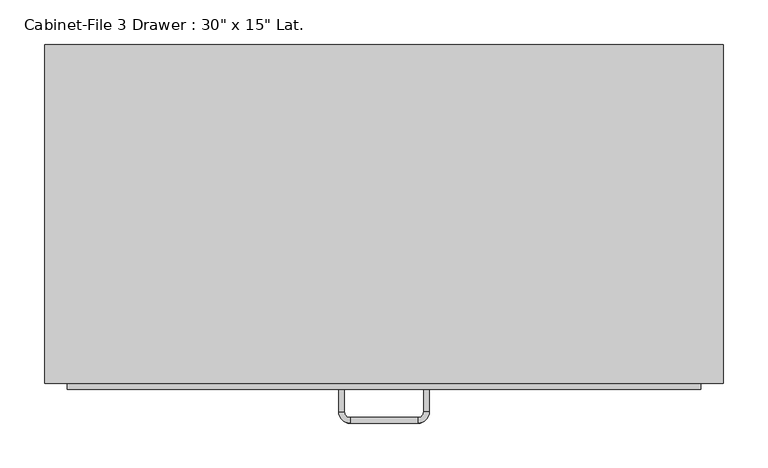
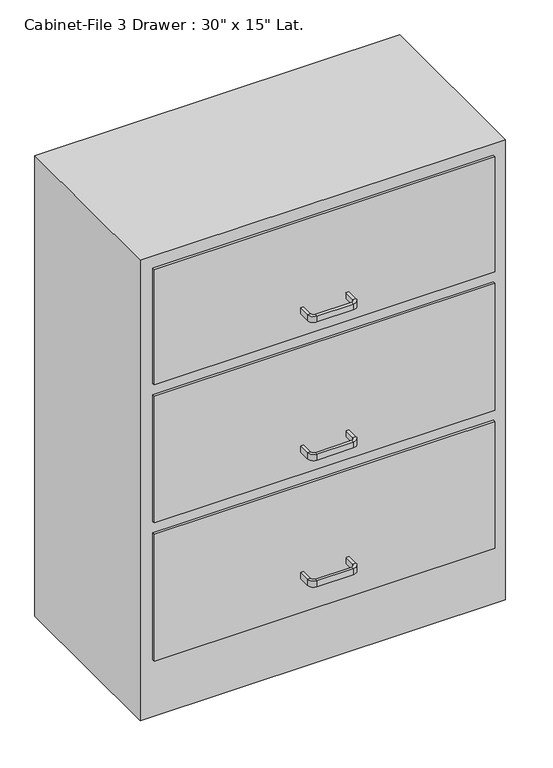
"""IFC4 building model written with IfcOpenShell, lengths in millimetres: furniture geometry."""

from ifc_helpers import new_model, si_unit, frame, origin, origin_with_axes, place, context, project, spatial, polyline, circle_curve, outline, extrude, source, transform, mapped, element, save
from ifc_brep_helpers import plane_surface, cylinder_surface, revolved_surface, advanced_brep


def furniture_4ebe9c9a(model_context):
    return source(origin(), model_context, "Body", "SolidModel", [
        extrude(outline(polyline([(253.103553, 48.3656999), (253.103553, -332.6343001), (-508.896447, -332.6343001), (-508.896447, 48.3656999), (253.103553, 48.3656999)])), origin_with_axes(), (0.0, 0.0, 1.0), 1016.0),
        extrude(outline(polyline([(227.703553, -338.9843001), (-483.496447, -338.9843001), (-483.496447, -332.6343001), (227.703553, -332.6343001), (227.703553, -338.9843001)])), frame((0.0, 0.0, 736.6), z_axis=(0.0, 0.0, 1.0), x_axis=(1.0, 0.0, 0.0)), (0.0, 0.0, 1.0), 254.0),
        extrude(outline(polyline([(227.703553, -338.9843001), (-483.496447, -338.9843001), (-483.496447, -332.6343001), (227.703553, -332.6343001), (227.703553, -338.9843001)])), frame((0.0, 0.0, 431.8), z_axis=(0.0, 0.0, 1.0), x_axis=(1.0, 0.0, 0.0)), (0.0, 0.0, 1.0), 279.4),
        extrude(outline(polyline([(227.703553, -338.9843001), (-483.496447, -338.9843001), (-483.496447, -332.6343001), (227.703553, -332.6343001), (227.703553, -338.9843001)])), frame((0.0, 0.0, 127.0), z_axis=(0.0, 0.0, 1.0), x_axis=(1.0, 0.0, 0.0)), (0.0, 0.0, 1.0), 279.4),
        advanced_brep(
        [(-172.346447, -338.9843001, 203.2), (-178.696447, -338.9843001, 203.2), (-178.696447, -338.9843001, 215.9), (-172.346447, -338.9843001, 215.9), (-172.346447, -364.3843001, 203.2), (-178.696447, -364.3843001, 203.2), (-178.696447, -364.3843001, 215.9), (-172.346447, -364.3843001, 215.9), (-165.996447, -377.0843001, 203.2), (-165.996447, -370.7343001, 203.2), (-165.996447, -377.0843001, 215.9), (-165.996447, -370.7343001, 215.9), (-89.796447, -370.7343001, 203.2), (-89.796447, -377.0843001, 203.2), (-89.796447, -377.0843001, 215.9), (-89.796447, -370.7343001, 215.9), (-77.096447, -364.3843001, 203.2), (-83.446447, -364.3843001, 203.2), (-77.096447, -364.3843001, 215.9), (-83.446447, -364.3843001, 215.9), (-83.446447, -338.9843001, 203.2), (-83.446447, -338.9843001, 215.9), (-77.096447, -338.9843001, 215.9), (-77.096447, -338.9843001, 203.2)],
        [
            (0, 1),
            (1, 2),
            (2, 3),
            (3, 0),
            (0, 4),
            (4, 5),
            (5, 1),
            (5, 6),
            (6, 2),
            (6, 7),
            (7, 3),
            (7, 4),
            (8, 5, circle_curve(frame((-165.996447, -364.3843001, 203.2), z_axis=(0.0, 0.0, -1.0), x_axis=(-1.0, 0.0, 0.0)), 12.7)),
            (4, 9, circle_curve(frame((-165.996447, -364.3843001, 203.2), z_axis=(0.0, 0.0, 1.0), x_axis=(-1.0, 0.0, 0.0)), 6.35)),
            (9, 8),
            (10, 6, circle_curve(frame((-165.996447, -364.3843001, 215.9), z_axis=(0.0, 0.0, -1.0), x_axis=(-1.0, 0.0, 0.0)), 12.7)),
            (8, 10),
            (11, 7, circle_curve(frame((-165.996447, -364.3843001, 215.9), z_axis=(0.0, 0.0, -1.0), x_axis=(-1.0, 0.0, 0.0)), 6.35)),
            (10, 11),
            (11, 9),
            (9, 12),
            (12, 13),
            (13, 8),
            (13, 14),
            (14, 10),
            (14, 15),
            (15, 11),
            (15, 12),
            (16, 13, circle_curve(frame((-89.796447, -364.3843001, 203.2), z_axis=(0.0, 0.0, -1.0), x_axis=(0.0, -1.0, 0.0)), 12.7)),
            (12, 17, circle_curve(frame((-89.796447, -364.3843001, 203.2), z_axis=(0.0, 0.0, 1.0), x_axis=(0.0, -1.0, 0.0)), 6.35)),
            (17, 16),
            (18, 14, circle_curve(frame((-89.796447, -364.3843001, 215.9), z_axis=(0.0, 0.0, -1.0), x_axis=(0.0, -1.0, 0.0)), 12.7)),
            (16, 18),
            (19, 15, circle_curve(frame((-89.796447, -364.3843001, 215.9), z_axis=(0.0, 0.0, -1.0), x_axis=(0.0, -1.0, 0.0)), 6.35)),
            (18, 19),
            (19, 17),
            (20, 21),
            (21, 22),
            (22, 23),
            (23, 20),
            (17, 20),
            (23, 16),
            (22, 18),
            (21, 19),
        ],
        [
            plane_surface(frame((-978.8216451, -338.9843001, 0.0), z_axis=(0.0, 1.0, 0.0), x_axis=(0.0, 0.0, -1.0))),
            plane_surface(frame((-172.346447, -338.9843001, 203.2), z_axis=(0.0, 0.0, -1.0), x_axis=(0.0, -1.0, 0.0))),
            plane_surface(frame((-178.696447, -338.9843001, 203.2), z_axis=(-1.0, 0.0, 0.0), x_axis=(0.0, -1.0, 0.0))),
            plane_surface(frame((-178.696447, -338.9843001, 215.9), z_axis=(0.0, 0.0, 1.0), x_axis=(0.0, -1.0, 0.0))),
            plane_surface(frame((-172.346447, -338.9843001, 215.9), z_axis=(1.0, 0.0, 0.0), x_axis=(0.0, -1.0, 0.0))),
            plane_surface(frame((-165.996447, -364.3843001, 203.2), z_axis=(0.0, 0.0, -1.0), x_axis=(-1.0, 0.0, 0.0))),
            cylinder_surface(frame((-165.996447, -364.3843001, 0.0), z_axis=(0.0, 0.0, 1.0), x_axis=(-1.0, 0.0, 0.0)), 12.7),
            plane_surface(frame((-165.996447, -364.3843001, 215.9), z_axis=(0.0, 0.0, 1.0), x_axis=(-1.0, 0.0, 0.0))),
            revolved_surface(polyline([(-172.34644699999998, -364.3843001, 215.9), (-172.34644699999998, -364.3843001, 203.2)]), (-165.996447, -364.3843001, 0.0), (0.0, 0.0, 1.0)),
            plane_surface(frame((-165.996447, -370.7343001, 203.2), z_axis=(0.0, 0.0, -1.0), x_axis=(1.0, 0.0, 0.0))),
            plane_surface(frame((-165.996447, -377.0843001, 203.2), z_axis=(0.0, -1.0, 0.0), x_axis=(1.0, 0.0, 0.0))),
            plane_surface(frame((-165.996447, -377.0843001, 215.9), z_axis=(0.0, 0.0, 1.0), x_axis=(1.0, 0.0, 0.0))),
            plane_surface(frame((-165.996447, -370.7343001, 215.9), z_axis=(0.0, 1.0, 0.0), x_axis=(1.0, 0.0, 0.0))),
            plane_surface(frame((-89.796447, -364.3843001, 203.2), z_axis=(0.0, 0.0, -1.0), x_axis=(0.0, -1.0, 0.0))),
            cylinder_surface(frame((-89.796447, -364.3843001, 0.0), z_axis=(0.0, 0.0, 1.0), x_axis=(0.0, -1.0, 0.0)), 12.7),
            plane_surface(frame((-89.796447, -364.3843001, 215.9), z_axis=(0.0, 0.0, 1.0), x_axis=(0.0, -1.0, 0.0))),
            revolved_surface(polyline([(-89.796447, -370.73430010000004, 215.9), (-89.796447, -370.73430010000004, 203.2)]), (-89.796447, -364.3843001, 0.0), (0.0, 0.0, 1.0)),
            plane_surface(frame((-877.2216451, -338.9843001, 0.0), z_axis=(0.0, 1.0, 0.0), x_axis=(0.0, 0.0, 1.0))),
            plane_surface(frame((-83.446447, -364.3843001, 203.2), z_axis=(0.0, 0.0, -1.0), x_axis=(0.0, 1.0, 0.0))),
            plane_surface(frame((-77.096447, -364.3843001, 203.2), z_axis=(1.0, 0.0, 0.0), x_axis=(0.0, 1.0, 0.0))),
            plane_surface(frame((-77.096447, -364.3843001, 215.9), z_axis=(0.0, 0.0, 1.0), x_axis=(0.0, 1.0, 0.0))),
            plane_surface(frame((-83.446447, -364.3843001, 215.9), z_axis=(-1.0, 0.0, 0.0), x_axis=(0.0, 1.0, 0.0))),
        ],
        [
            (0, [[1, 2, 3, 4]]),
            (1, [[-1, 5, 6, 7]]),
            (2, [[-2, -7, 8, 9]]),
            (3, [[-3, -9, 10, 11]]),
            (4, [[-4, -11, 12, -5]]),
            (5, [[13, -6, 14, 15]]),
            (6, [[16, -8, -13, 17]]),
            (7, [[18, -10, -16, 19]]),
            (8, [[-14, -12, -18, 20]]),
            (9, [[-15, 21, 22, 23]]),
            (10, [[-17, -23, 24, 25]]),
            (11, [[-19, -25, 26, 27]]),
            (12, [[-20, -27, 28, -21]]),
            (13, [[29, -22, 30, 31]]),
            (14, [[32, -24, -29, 33]]),
            (15, [[34, -26, -32, 35]]),
            (16, [[-30, -28, -34, 36]]),
            (17, [[37, 38, 39, 40]]),
            (18, [[-31, 41, -40, 42]]),
            (19, [[-33, -42, -39, 43]]),
            (20, [[-35, -43, -38, 44]]),
            (21, [[-36, -44, -37, -41]]),
        ],
    ),
        advanced_brep(
        [(-172.346447, -338.9843001, 482.6), (-178.696447, -338.9843001, 482.6), (-178.696447, -338.9843001, 495.3), (-172.346447, -338.9843001, 495.3), (-172.346447, -364.3843001, 482.6), (-178.696447, -364.3843001, 482.6), (-178.696447, -364.3843001, 495.3), (-172.346447, -364.3843001, 495.3), (-165.996447, -377.0843001, 482.6), (-165.996447, -370.7343001, 482.6), (-165.996447, -377.0843001, 495.3), (-165.996447, -370.7343001, 495.3), (-89.796447, -370.7343001, 482.6), (-89.796447, -377.0843001, 482.6), (-89.796447, -377.0843001, 495.3), (-89.796447, -370.7343001, 495.3), (-77.096447, -364.3843001, 482.6), (-83.446447, -364.3843001, 482.6), (-77.096447, -364.3843001, 495.3), (-83.446447, -364.3843001, 495.3), (-83.446447, -338.9843001, 482.6), (-83.446447, -338.9843001, 495.3), (-77.096447, -338.9843001, 495.3), (-77.096447, -338.9843001, 482.6)],
        [
            (0, 1),
            (1, 2),
            (2, 3),
            (3, 0),
            (0, 4),
            (4, 5),
            (5, 1),
            (5, 6),
            (6, 2),
            (6, 7),
            (7, 3),
            (7, 4),
            (8, 5, circle_curve(frame((-165.996447, -364.3843001, 482.6), z_axis=(0.0, 0.0, -1.0), x_axis=(-1.0, 0.0, 0.0)), 12.7)),
            (4, 9, circle_curve(frame((-165.996447, -364.3843001, 482.6), z_axis=(0.0, 0.0, 1.0), x_axis=(-1.0, 0.0, 0.0)), 6.35)),
            (9, 8),
            (10, 6, circle_curve(frame((-165.996447, -364.3843001, 495.3), z_axis=(0.0, 0.0, -1.0), x_axis=(-1.0, 0.0, 0.0)), 12.7)),
            (8, 10),
            (11, 7, circle_curve(frame((-165.996447, -364.3843001, 495.3), z_axis=(0.0, 0.0, -1.0), x_axis=(-1.0, 0.0, 0.0)), 6.35)),
            (10, 11),
            (11, 9),
            (9, 12),
            (12, 13),
            (13, 8),
            (13, 14),
            (14, 10),
            (14, 15),
            (15, 11),
            (15, 12),
            (16, 13, circle_curve(frame((-89.796447, -364.3843001, 482.6), z_axis=(0.0, 0.0, -1.0), x_axis=(0.0, -1.0, 0.0)), 12.7)),
            (12, 17, circle_curve(frame((-89.796447, -364.3843001, 482.6), z_axis=(0.0, 0.0, 1.0), x_axis=(0.0, -1.0, 0.0)), 6.35)),
            (17, 16),
            (18, 14, circle_curve(frame((-89.796447, -364.3843001, 495.3), z_axis=(0.0, 0.0, -1.0), x_axis=(0.0, -1.0, 0.0)), 12.7)),
            (16, 18),
            (19, 15, circle_curve(frame((-89.796447, -364.3843001, 495.3), z_axis=(0.0, 0.0, -1.0), x_axis=(0.0, -1.0, 0.0)), 6.35)),
            (18, 19),
            (19, 17),
            (20, 21),
            (21, 22),
            (22, 23),
            (23, 20),
            (17, 20),
            (23, 16),
            (22, 18),
            (21, 19),
        ],
        [
            plane_surface(frame((-978.8216451, -338.9843001, 0.0), z_axis=(0.0, 1.0, 0.0), x_axis=(0.0, 0.0, -1.0))),
            plane_surface(frame((-172.346447, -338.9843001, 482.6), z_axis=(0.0, 0.0, -1.0), x_axis=(0.0, -1.0, 0.0))),
            plane_surface(frame((-178.696447, -338.9843001, 482.6), z_axis=(-1.0, 0.0, 0.0), x_axis=(0.0, -1.0, 0.0))),
            plane_surface(frame((-178.696447, -338.9843001, 495.3), z_axis=(0.0, 0.0, 1.0), x_axis=(0.0, -1.0, 0.0))),
            plane_surface(frame((-172.346447, -338.9843001, 495.3), z_axis=(1.0, 0.0, 0.0), x_axis=(0.0, -1.0, 0.0))),
            plane_surface(frame((-165.996447, -364.3843001, 482.6), z_axis=(0.0, 0.0, -1.0), x_axis=(-1.0, 0.0, 0.0))),
            cylinder_surface(frame((-165.996447, -364.3843001, 0.0), z_axis=(0.0, 0.0, 1.0), x_axis=(-1.0, 0.0, 0.0)), 12.7),
            plane_surface(frame((-165.996447, -364.3843001, 495.3), z_axis=(0.0, 0.0, 1.0), x_axis=(-1.0, 0.0, 0.0))),
            revolved_surface(polyline([(-172.34644699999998, -364.3843001, 495.3), (-172.34644699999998, -364.3843001, 482.6)]), (-165.996447, -364.3843001, 0.0), (0.0, 0.0, 1.0)),
            plane_surface(frame((-165.996447, -370.7343001, 482.6), z_axis=(0.0, 0.0, -1.0), x_axis=(1.0, 0.0, 0.0))),
            plane_surface(frame((-165.996447, -377.0843001, 482.6), z_axis=(0.0, -1.0, 0.0), x_axis=(1.0, 0.0, 0.0))),
            plane_surface(frame((-165.996447, -377.0843001, 495.3), z_axis=(0.0, 0.0, 1.0), x_axis=(1.0, 0.0, 0.0))),
            plane_surface(frame((-165.996447, -370.7343001, 495.3), z_axis=(0.0, 1.0, 0.0), x_axis=(1.0, 0.0, 0.0))),
            plane_surface(frame((-89.796447, -364.3843001, 482.6), z_axis=(0.0, 0.0, -1.0), x_axis=(0.0, -1.0, 0.0))),
            cylinder_surface(frame((-89.796447, -364.3843001, 0.0), z_axis=(0.0, 0.0, 1.0), x_axis=(0.0, -1.0, 0.0)), 12.7),
            plane_surface(frame((-89.796447, -364.3843001, 495.3), z_axis=(0.0, 0.0, 1.0), x_axis=(0.0, -1.0, 0.0))),
            revolved_surface(polyline([(-89.796447, -370.73430010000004, 495.3), (-89.796447, -370.73430010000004, 482.6)]), (-89.796447, -364.3843001, 0.0), (0.0, 0.0, 1.0)),
            plane_surface(frame((-877.2216451, -338.9843001, 0.0), z_axis=(0.0, 1.0, 0.0), x_axis=(0.0, 0.0, 1.0))),
            plane_surface(frame((-83.446447, -364.3843001, 482.6), z_axis=(0.0, 0.0, -1.0), x_axis=(0.0, 1.0, 0.0))),
            plane_surface(frame((-77.096447, -364.3843001, 482.6), z_axis=(1.0, 0.0, 0.0), x_axis=(0.0, 1.0, 0.0))),
            plane_surface(frame((-77.096447, -364.3843001, 495.3), z_axis=(0.0, 0.0, 1.0), x_axis=(0.0, 1.0, 0.0))),
            plane_surface(frame((-83.446447, -364.3843001, 495.3), z_axis=(-1.0, 0.0, 0.0), x_axis=(0.0, 1.0, 0.0))),
        ],
        [
            (0, [[1, 2, 3, 4]]),
            (1, [[-1, 5, 6, 7]]),
            (2, [[-2, -7, 8, 9]]),
            (3, [[-3, -9, 10, 11]]),
            (4, [[-4, -11, 12, -5]]),
            (5, [[13, -6, 14, 15]]),
            (6, [[16, -8, -13, 17]]),
            (7, [[18, -10, -16, 19]]),
            (8, [[-14, -12, -18, 20]]),
            (9, [[-15, 21, 22, 23]]),
            (10, [[-17, -23, 24, 25]]),
            (11, [[-19, -25, 26, 27]]),
            (12, [[-20, -27, 28, -21]]),
            (13, [[29, -22, 30, 31]]),
            (14, [[32, -24, -29, 33]]),
            (15, [[34, -26, -32, 35]]),
            (16, [[-30, -28, -34, 36]]),
            (17, [[37, 38, 39, 40]]),
            (18, [[-31, 41, -40, 42]]),
            (19, [[-33, -42, -39, 43]]),
            (20, [[-35, -43, -38, 44]]),
            (21, [[-36, -44, -37, -41]]),
        ],
    ),
        advanced_brep(
        [(-172.346447, -338.9843001, 787.4), (-178.696447, -338.9843001, 787.4), (-178.696447, -338.9843001, 800.1), (-172.346447, -338.9843001, 800.1), (-172.346447, -364.3843001, 787.4), (-178.696447, -364.3843001, 787.4), (-178.696447, -364.3843001, 800.1), (-172.346447, -364.3843001, 800.1), (-165.996447, -377.0843001, 787.4), (-165.996447, -370.7343001, 787.4), (-165.996447, -377.0843001, 800.1), (-165.996447, -370.7343001, 800.1), (-89.796447, -370.7343001, 787.4), (-89.796447, -377.0843001, 787.4), (-89.796447, -377.0843001, 800.1), (-89.796447, -370.7343001, 800.1), (-77.096447, -364.3843001, 787.4), (-83.446447, -364.3843001, 787.4), (-77.096447, -364.3843001, 800.1), (-83.446447, -364.3843001, 800.1), (-83.446447, -338.9843001, 787.4), (-83.446447, -338.9843001, 800.1), (-77.096447, -338.9843001, 800.1), (-77.096447, -338.9843001, 787.4)],
        [
            (0, 1),
            (1, 2),
            (2, 3),
            (3, 0),
            (0, 4),
            (4, 5),
            (5, 1),
            (5, 6),
            (6, 2),
            (6, 7),
            (7, 3),
            (7, 4),
            (8, 5, circle_curve(frame((-165.996447, -364.3843001, 787.4), z_axis=(0.0, 0.0, -1.0), x_axis=(-1.0, 0.0, 0.0)), 12.7)),
            (4, 9, circle_curve(frame((-165.996447, -364.3843001, 787.4), z_axis=(0.0, 0.0, 1.0), x_axis=(-1.0, 0.0, 0.0)), 6.35)),
            (9, 8),
            (10, 6, circle_curve(frame((-165.996447, -364.3843001, 800.1), z_axis=(0.0, 0.0, -1.0), x_axis=(-1.0, 0.0, 0.0)), 12.7)),
            (8, 10),
            (11, 7, circle_curve(frame((-165.996447, -364.3843001, 800.1), z_axis=(0.0, 0.0, -1.0), x_axis=(-1.0, 0.0, 0.0)), 6.35)),
            (10, 11),
            (11, 9),
            (9, 12),
            (12, 13),
            (13, 8),
            (13, 14),
            (14, 10),
            (14, 15),
            (15, 11),
            (15, 12),
            (16, 13, circle_curve(frame((-89.796447, -364.3843001, 787.4), z_axis=(0.0, 0.0, -1.0), x_axis=(0.0, -1.0, 0.0)), 12.7)),
            (12, 17, circle_curve(frame((-89.796447, -364.3843001, 787.4), z_axis=(0.0, 0.0, 1.0), x_axis=(0.0, -1.0, 0.0)), 6.35)),
            (17, 16),
            (18, 14, circle_curve(frame((-89.796447, -364.3843001, 800.1), z_axis=(0.0, 0.0, -1.0), x_axis=(0.0, -1.0, 0.0)), 12.7)),
            (16, 18),
            (19, 15, circle_curve(frame((-89.796447, -364.3843001, 800.1), z_axis=(0.0, 0.0, -1.0), x_axis=(0.0, -1.0, 0.0)), 6.35)),
            (18, 19),
            (19, 17),
            (20, 21),
            (21, 22),
            (22, 23),
            (23, 20),
            (17, 20),
            (23, 16),
            (22, 18),
            (21, 19),
        ],
        [
            plane_surface(frame((-978.8216451, -338.9843001, 0.0), z_axis=(0.0, 1.0, 0.0), x_axis=(0.0, 0.0, -1.0))),
            plane_surface(frame((-172.346447, -338.9843001, 787.4), z_axis=(0.0, 0.0, -1.0), x_axis=(0.0, -1.0, 0.0))),
            plane_surface(frame((-178.696447, -338.9843001, 787.4), z_axis=(-1.0, 0.0, 0.0), x_axis=(0.0, -1.0, 0.0))),
            plane_surface(frame((-178.696447, -338.9843001, 800.1), z_axis=(0.0, 0.0, 1.0), x_axis=(0.0, -1.0, 0.0))),
            plane_surface(frame((-172.346447, -338.9843001, 800.1), z_axis=(1.0, 0.0, 0.0), x_axis=(0.0, -1.0, 0.0))),
            plane_surface(frame((-165.996447, -364.3843001, 787.4), z_axis=(0.0, 0.0, -1.0), x_axis=(-1.0, 0.0, 0.0))),
            cylinder_surface(frame((-165.996447, -364.3843001, 0.0), z_axis=(0.0, 0.0, 1.0), x_axis=(-1.0, 0.0, 0.0)), 12.7),
            plane_surface(frame((-165.996447, -364.3843001, 800.1), z_axis=(0.0, 0.0, 1.0), x_axis=(-1.0, 0.0, 0.0))),
            revolved_surface(polyline([(-172.34644699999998, -364.3843001, 800.1), (-172.34644699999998, -364.3843001, 787.4)]), (-165.996447, -364.3843001, 0.0), (0.0, 0.0, 1.0)),
            plane_surface(frame((-165.996447, -370.7343001, 787.4), z_axis=(0.0, 0.0, -1.0), x_axis=(1.0, 0.0, 0.0))),
            plane_surface(frame((-165.996447, -377.0843001, 787.4), z_axis=(0.0, -1.0, 0.0), x_axis=(1.0, 0.0, 0.0))),
            plane_surface(frame((-165.996447, -377.0843001, 800.1), z_axis=(0.0, 0.0, 1.0), x_axis=(1.0, 0.0, 0.0))),
            plane_surface(frame((-165.996447, -370.7343001, 800.1), z_axis=(0.0, 1.0, 0.0), x_axis=(1.0, 0.0, 0.0))),
            plane_surface(frame((-89.796447, -364.3843001, 787.4), z_axis=(0.0, 0.0, -1.0), x_axis=(0.0, -1.0, 0.0))),
            cylinder_surface(frame((-89.796447, -364.3843001, 0.0), z_axis=(0.0, 0.0, 1.0), x_axis=(0.0, -1.0, 0.0)), 12.7),
            plane_surface(frame((-89.796447, -364.3843001, 800.1), z_axis=(0.0, 0.0, 1.0), x_axis=(0.0, -1.0, 0.0))),
            revolved_surface(polyline([(-89.796447, -370.73430010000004, 800.1), (-89.796447, -370.73430010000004, 787.4)]), (-89.796447, -364.3843001, 0.0), (0.0, 0.0, 1.0)),
            plane_surface(frame((-877.2216451, -338.9843001, 0.0), z_axis=(0.0, 1.0, 0.0), x_axis=(0.0, 0.0, 1.0))),
            plane_surface(frame((-83.446447, -364.3843001, 787.4), z_axis=(0.0, 0.0, -1.0), x_axis=(0.0, 1.0, 0.0))),
            plane_surface(frame((-77.096447, -364.3843001, 787.4), z_axis=(1.0, 0.0, 0.0), x_axis=(0.0, 1.0, 0.0))),
            plane_surface(frame((-77.096447, -364.3843001, 800.1), z_axis=(0.0, 0.0, 1.0), x_axis=(0.0, 1.0, 0.0))),
            plane_surface(frame((-83.446447, -364.3843001, 800.1), z_axis=(-1.0, 0.0, 0.0), x_axis=(0.0, 1.0, 0.0))),
        ],
        [
            (0, [[1, 2, 3, 4]]),
            (1, [[-1, 5, 6, 7]]),
            (2, [[-2, -7, 8, 9]]),
            (3, [[-3, -9, 10, 11]]),
            (4, [[-4, -11, 12, -5]]),
            (5, [[13, -6, 14, 15]]),
            (6, [[16, -8, -13, 17]]),
            (7, [[18, -10, -16, 19]]),
            (8, [[-14, -12, -18, 20]]),
            (9, [[-15, 21, 22, 23]]),
            (10, [[-17, -23, 24, 25]]),
            (11, [[-19, -25, 26, 27]]),
            (12, [[-20, -27, 28, -21]]),
            (13, [[29, -22, 30, 31]]),
            (14, [[32, -24, -29, 33]]),
            (15, [[34, -26, -32, 35]]),
            (16, [[-30, -28, -34, 36]]),
            (17, [[37, 38, 39, 40]]),
            (18, [[-31, 41, -40, 42]]),
            (19, [[-33, -42, -39, 43]]),
            (20, [[-35, -43, -38, 44]]),
            (21, [[-36, -44, -37, -41]]),
        ],
    ),
    ])


if __name__ == "__main__":
    model = new_model("IFC4")
    model_context = context("Model", 3, world=origin())
    ifc_project = project(units=[si_unit("LENGTHUNIT", "METRE", prefix="MILLI")], contexts=[model_context])
    site = spatial("IfcSite", under=ifc_project)
    building = spatial("IfcBuilding", under=site)
    placement = place(None, origin())
    furniture_shape = furniture_4ebe9c9a(model_context)
    element("IfcFurniture", 1, ObjectType="Cabinet-File 3 Drawer : 30\" x 15\" Lat.", at=placement, inside=building, context=model_context, shape_type="MappedRepresentation", body=[
        mapped(furniture_shape, transform((0.0, 0.0, 0.0), x_axis=(1.0, 0.0, 0.0), y_axis=(0.0, 1.0, 0.0), z_axis=(0.0, 0.0, 1.0))),
    ])
    save(model, "model.ifc")
